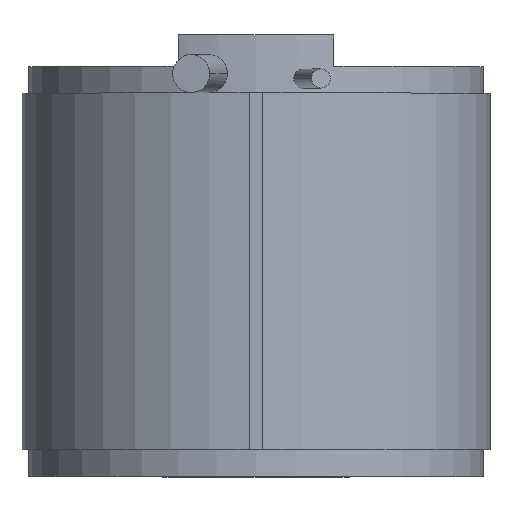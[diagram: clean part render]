
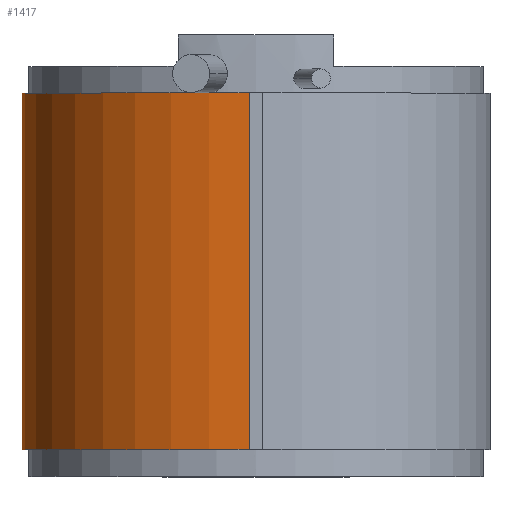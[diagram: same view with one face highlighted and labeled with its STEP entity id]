
A CAD part, top view. The second image highlights one B-rep face of the part: STEP entity #1417.
In plain terms, the highlighted cylindrical face has radius 52.5 mm (diameter 105 mm), a partial arc.
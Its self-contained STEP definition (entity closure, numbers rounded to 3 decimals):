
#3 = AXIS2_PLACEMENT_3D ( 'NONE', #428, #3017, #385 ) ;
#62 = CIRCLE ( 'NONE', #3, 52.5 ) ;
#67 = CARTESIAN_POINT ( 'NONE',  ( -43.254, 49.924, 107.523 ) ) ;
#107 = EDGE_LOOP ( 'NONE', ( #1193, #1798, #2026, #779 ) ) ;
#345 = CARTESIAN_POINT ( 'NONE',  ( 7.721, -2.554, 27.523 ) ) ;
#367 = CIRCLE ( 'NONE', #1152, 52.5 ) ;
#385 = DIRECTION ( 'NONE',  ( 1., 0., 0. ) ) ;
#428 = CARTESIAN_POINT ( 'NONE',  ( 9.246, 49.924, 107.523 ) ) ;
#776 = LINE ( 'NONE', #2958, #1525 ) ;
#779 = ORIENTED_EDGE ( 'NONE', *, *, #3096, .T. ) ;
#808 = LINE ( 'NONE', #1276, #1035 ) ;
#837 = DIRECTION ( 'NONE',  ( -1., 0., 0. ) ) ;
#1017 = EDGE_CURVE ( 'NONE', #3032, #2918, #367, .T. ) ;
#1035 = VECTOR ( 'NONE', #2224, 1000. ) ;
#1152 = AXIS2_PLACEMENT_3D ( 'NONE', #2985, #2729, #837 ) ;
#1193 = ORIENTED_EDGE ( 'NONE', *, *, #1305, .F. ) ;
#1276 = CARTESIAN_POINT ( 'NONE',  ( -43.254, 49.924, 107.523 ) ) ;
#1305 = EDGE_CURVE ( 'NONE', #2918, #2411, #808, .T. ) ;
#1417 = ADVANCED_FACE ( 'NONE', ( #1926 ), #1633, .T. ) ;
#1525 = VECTOR ( 'NONE', #1764, 1000. ) ;
#1633 = CYLINDRICAL_SURFACE ( 'NONE', #2073, 52.5 ) ;
#1741 = CARTESIAN_POINT ( 'NONE',  ( -43.254, 49.924, 27.523 ) ) ;
#1764 = DIRECTION ( 'NONE',  ( 0., 0., -1. ) ) ;
#1798 = ORIENTED_EDGE ( 'NONE', *, *, #1017, .F. ) ;
#1868 = VERTEX_POINT ( 'NONE', #2327 ) ;
#1874 = CARTESIAN_POINT ( 'NONE',  ( 9.246, 49.924, 107.523 ) ) ;
#1926 = FACE_OUTER_BOUND ( 'NONE', #107, .T. ) ;
#2014 = EDGE_CURVE ( 'NONE', #1868, #3032, #776, .T. ) ;
#2026 = ORIENTED_EDGE ( 'NONE', *, *, #2014, .F. ) ;
#2073 = AXIS2_PLACEMENT_3D ( 'NONE', #1874, #2890, #3065 ) ;
#2224 = DIRECTION ( 'NONE',  ( 0., 0., 1. ) ) ;
#2327 = CARTESIAN_POINT ( 'NONE',  ( 7.721, -2.554, 107.523 ) ) ;
#2411 = VERTEX_POINT ( 'NONE', #67 ) ;
#2729 = DIRECTION ( 'NONE',  ( 0., 0., -1. ) ) ;
#2890 = DIRECTION ( 'NONE',  ( 0., 0., 1. ) ) ;
#2918 = VERTEX_POINT ( 'NONE', #1741 ) ;
#2958 = CARTESIAN_POINT ( 'NONE',  ( 7.721, -2.554, 252.231 ) ) ;
#2985 = CARTESIAN_POINT ( 'NONE',  ( 9.246, 49.924, 27.523 ) ) ;
#3017 = DIRECTION ( 'NONE',  ( 0., 0., -1. ) ) ;
#3032 = VERTEX_POINT ( 'NONE', #345 ) ;
#3065 = DIRECTION ( 'NONE',  ( -1., 0., 0. ) ) ;
#3096 = EDGE_CURVE ( 'NONE', #1868, #2411, #62, .T. ) ;
